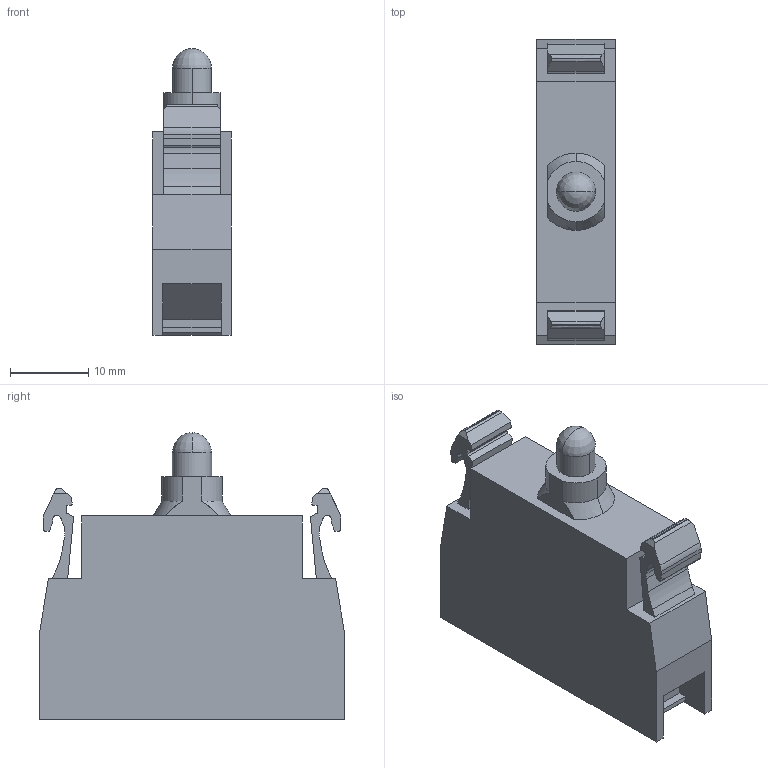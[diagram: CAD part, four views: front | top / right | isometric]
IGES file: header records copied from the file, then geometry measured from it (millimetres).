
Start section: Data from XPlus IGES,  Spatial Corp. Copyright (c) 1999-2004
Global section: file name: 113890.igs; native system:  By Spatial Corp.; preprocessor: XPlus ACIS/IGES 3.0; author: Noname; organization: Noname; date: 20120615.215349; units: millimetre
Bounding box: 10 x 39 x 36.65 mm (x, y, z)
Surface area: 3868 mm2 (no closed solid volume)
Topology: 0 solids, 0 shells, 107 faces, 606 edges, 604 vertices
Faces by surface type: extrusion 69, revolution 38
